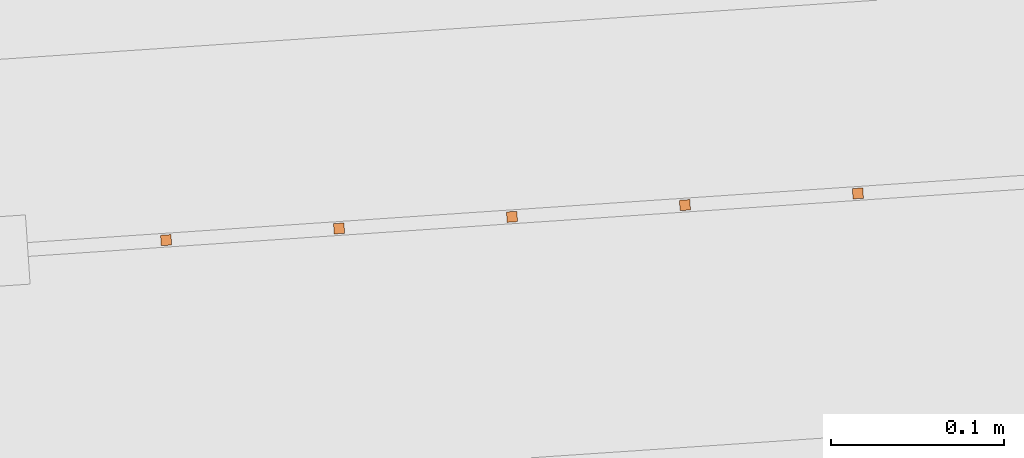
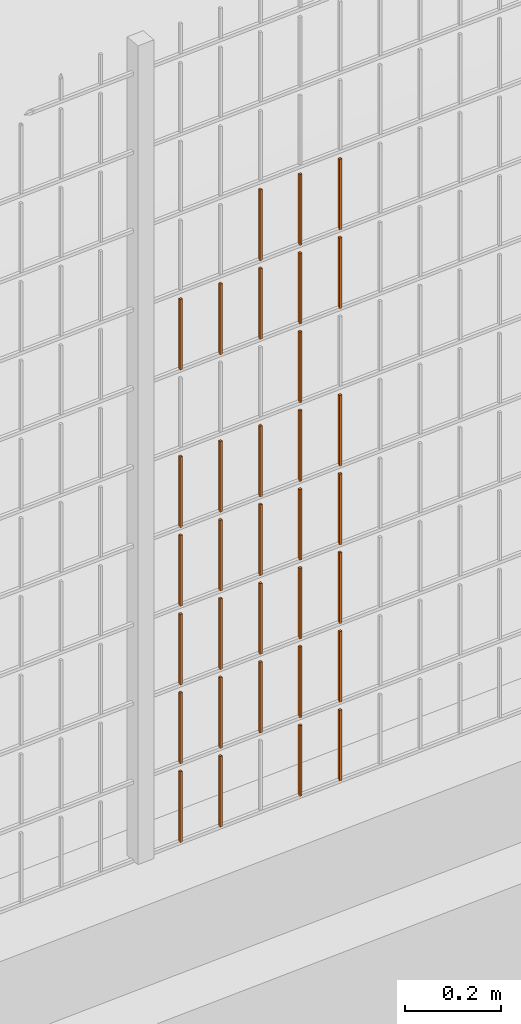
# One storey, part 202 of 1809: 33 proxies, 1 element without a shape of its own.
"""IFC2X3 building model written with IfcOpenShell, lengths in millimetres."""

from ifc_helpers import new_model, entity, si_unit, converted_unit, derived_unit, money_unit, direction, frame, origin_with_axes, place, context, subcontext, project, spatial, faceted_brep, source, transform, mapped, material, type_object, element, aggregate, save


model = new_model("IFC2X3")

# Units and contexts
model_context = context("Model", 3, precision=0.01, world=origin_with_axes(), true_north=direction((0.0, 1.0)))
body_context = subcontext(model_context, "Body", "Model", "MODEL_VIEW")
ifc_project = project(units=[si_unit("LENGTHUNIT", "METRE", prefix="MILLI"), si_unit("AREAUNIT", "SQUARE_METRE"), si_unit("VOLUMEUNIT", "CUBIC_METRE"), converted_unit("PLANEANGLEUNIT", "DEGREE", entity("IfcPlaneAngleMeasure", 0.0174532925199), si_unit("PLANEANGLEUNIT", "RADIAN"), dimensions=[0, 0, 0, 0, 0, 0, 0]), si_unit("SOLIDANGLEUNIT", "STERADIAN"), money_unit("EUR"), converted_unit("TIMEUNIT", "Year", entity("IfcTimeMeasure", 31556926.0), si_unit("TIMEUNIT", "SECOND"), dimensions=[0, 0, 1, 0, 0, 0, 0]), si_unit("MASSUNIT", "GRAM", prefix="KILO"), si_unit("THERMODYNAMICTEMPERATUREUNIT", "DEGREE_CELSIUS"), si_unit("LUMINOUSINTENSITYUNIT", "LUMEN"), si_unit("ENERGYUNIT", "JOULE", prefix="MEGA"), derived_unit("THERMALCONDUCTANCEUNIT", [(si_unit("POWERUNIT", "WATT"), 1), (si_unit("LENGTHUNIT", "METRE"), -1), (si_unit("THERMODYNAMICTEMPERATUREUNIT", "KELVIN"), -1)]), derived_unit("SPECIFICHEATCAPACITYUNIT", [(si_unit("ENERGYUNIT", "JOULE"), 1), (si_unit("MASSUNIT", "GRAM", prefix="KILO"), -1), (si_unit("THERMODYNAMICTEMPERATUREUNIT", "KELVIN"), -1)]), derived_unit("MASSDENSITYUNIT", [(si_unit("MASSUNIT", "GRAM", prefix="KILO"), 1), (si_unit("VOLUMEUNIT", "CUBIC_METRE"), -1)])], contexts=[model_context])

# Site, building, storey
site_placement = place(None, origin_with_axes())
site = spatial("IfcSite", under=ifc_project, at=site_placement, Name="Politse- ja Piirivalveameti ning Päästeameti ühishoone", CompositionType="ELEMENT")
building_placement = place(site_placement, origin_with_axes())
building = spatial("IfcBuilding", under=site, at=building_placement, Name="Politse- ja Piirivalveameti ning Päästeameti ühishoone", CompositionType="ELEMENT")
storey_placement = place(building_placement, origin_with_axes())
storey = spatial("IfcBuildingStorey", under=building, at=storey_placement, Name="Esimene korrus", CompositionType="ELEMENT", Elevation=0.0)

# Proxies
building_element_proxy_type_1 = type_object("IfcBuildingElementProxyType", Name="Railing Type", PredefinedType="NOTDEFINED")
proxy_1_placement = place(storey_placement, frame((89252.001212, -29183.4766571, 203.661247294), z_axis=(0.0, 0.0, 1.0), x_axis=(1.0, 0.0, 0.0)))
proxy_1 = element("IfcBuildingElementProxy", 1, at=proxy_1_placement, inside=storey, type_object=building_element_proxy_type_1, Name="PIIRDEAED")
ifc_material = material(Name="ET-03_Raud")
building_element_proxy_type_2 = type_object("IfcBuildingElementProxyType", Name="IfcBuildingElementProxy", PredefinedType="NOTDEFINED")
shared_shape_1 = source(origin_with_axes(), body_context, "Body", "Brep", [
    faceted_brep([(3.0, 3.0, -0.000752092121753), (-3.0, 3.0, -0.000752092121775), (-3.0, 3.0, 179.99926046), (3.0, 3.0, 179.99926046), (3.0, -3.0, 0.000752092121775), (-3.0, -3.0, 0.000752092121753), (-3.0, -3.0, 180.000764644), (3.0, -3.0, 180.000764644)], [[[0, 1, 2, 3]], [[0, 4, 5, 1]], [[1, 5, 6, 2]], [[3, 2, 6, 7]], [[4, 0, 3, 7]], [[5, 4, 7, 6]]]),
])
proxy_2_placement = place(proxy_1_placement, frame((-64180.4431892, -21632.9214908, 1211.10785376), z_axis=(0.0, 0.0, 1.0), x_axis=(1.0, 0.0, 0.0)))
proxy_2 = element("IfcBuildingElementProxy", 2, at=proxy_2_placement, type_object=building_element_proxy_type_2, material=ifc_material, Name="BALUSTER - 001", context=body_context, shape_type="MappedRepresentation", body=[
    mapped(shared_shape_1, transform((0.0, 0.0, 0.0), x_axis=(-0.0673926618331, 0.997726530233, 0.0), y_axis=(-0.997726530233, -0.0673926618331, 0.0), z_axis=(0.0, 0.0, 1.0))),
])
shared_shape_2 = source(origin_with_axes(), body_context, "Body", "Brep", [
    faceted_brep([(3.0, 3.0, -0.000752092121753), (-3.0, 3.0, -0.000752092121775), (-3.0, 3.0, 179.99926046), (3.0, 3.0, 179.99926046), (3.0, -3.0, 0.000752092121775), (-3.0, -3.0, 0.000752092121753), (-3.0, -3.0, 180.000764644), (3.0, -3.0, 180.000764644)], [[[0, 1, 2, 3]], [[0, 4, 5, 1]], [[1, 5, 6, 2]], [[3, 2, 6, 7]], [[4, 0, 3, 7]], [[5, 4, 7, 6]]]),
])
proxy_3_placement = place(proxy_1_placement, frame((-64180.4431892, -21632.9214908, 1411.10785376), z_axis=(0.0, 0.0, 1.0), x_axis=(1.0, 0.0, 0.0)))
proxy_3 = element("IfcBuildingElementProxy", 3, at=proxy_3_placement, type_object=building_element_proxy_type_2, material=ifc_material, Name="BALUSTER - 001", context=body_context, shape_type="MappedRepresentation", body=[
    mapped(shared_shape_2, transform((0.0, 0.0, 0.0), x_axis=(-0.0673926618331, 0.997726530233, 0.0), y_axis=(-0.997726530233, -0.0673926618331, 0.0), z_axis=(0.0, 0.0, 1.0))),
])
shared_shape_3 = source(origin_with_axes(), body_context, "Body", "Brep", [
    faceted_brep([(3.0, 3.0, -0.000752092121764), (-3.0, 3.0, -0.000752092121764), (-3.0, 3.0, 179.99926046), (3.0, 3.0, 179.99926046), (3.0, -3.0, 0.000752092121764), (-3.0, -3.0, 0.000752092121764), (-3.0, -3.0, 180.000764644), (3.0, -3.0, 180.000764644)], [[[0, 1, 2, 3]], [[0, 4, 5, 1]], [[1, 5, 6, 2]], [[3, 2, 6, 7]], [[4, 0, 3, 7]], [[5, 4, 7, 6]]]),
])
proxy_4_placement = place(proxy_1_placement, frame((-64280.2158422, -21639.660757, 11.0827840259), z_axis=(0.0, 0.0, 1.0), x_axis=(1.0, 0.0, 0.0)))
proxy_4 = element("IfcBuildingElementProxy", 4, at=proxy_4_placement, type_object=building_element_proxy_type_2, material=ifc_material, Name="BALUSTER - 001", context=body_context, shape_type="MappedRepresentation", body=[
    mapped(shared_shape_3, transform((0.0, 0.0, 0.0), x_axis=(-0.0673926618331, 0.997726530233, 0.0), y_axis=(-0.997726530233, -0.0673926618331, 0.0), z_axis=(0.0, 0.0, 1.0))),
])
shared_shape_4 = source(origin_with_axes(), body_context, "Body", "Brep", [
    faceted_brep([(3.0, 3.0, -0.000752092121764), (-3.0, 3.0, -0.000752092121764), (-3.0, 3.0, 179.99926046), (3.0, 3.0, 179.99926046), (3.0, -3.0, 0.000752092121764), (-3.0, -3.0, 0.000752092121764), (-3.0, -3.0, 180.000764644), (3.0, -3.0, 180.000764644)], [[[0, 1, 2, 3]], [[0, 4, 5, 1]], [[1, 5, 6, 2]], [[3, 2, 6, 7]], [[4, 0, 3, 7]], [[5, 4, 7, 6]]]),
])
proxy_5_placement = place(proxy_1_placement, frame((-64479.7611482, -21653.1392893, 11.0326445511), z_axis=(0.0, 0.0, 1.0), x_axis=(1.0, 0.0, 0.0)))
proxy_5 = element("IfcBuildingElementProxy", 5, at=proxy_5_placement, type_object=building_element_proxy_type_2, material=ifc_material, Name="BALUSTER - 001", context=body_context, shape_type="MappedRepresentation", body=[
    mapped(shared_shape_4, transform((0.0, 0.0, 0.0), x_axis=(-0.0673926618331, 0.997726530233, 0.0), y_axis=(-0.997726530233, -0.0673926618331, 0.0), z_axis=(0.0, 0.0, 1.0))),
])
shared_shape_5 = source(origin_with_axes(), body_context, "Body", "Brep", [
    faceted_brep([(3.0, 3.0, -0.000752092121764), (-3.0, 3.0, -0.000752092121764), (-3.0, 3.0, 179.99926046), (3.0, 3.0, 179.99926046), (3.0, -3.0, 0.000752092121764), (-3.0, -3.0, 0.000752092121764), (-3.0, -3.0, 180.000764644), (3.0, -3.0, 180.000764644)], [[[0, 1, 2, 3]], [[0, 4, 5, 1]], [[1, 5, 6, 2]], [[3, 2, 6, 7]], [[4, 0, 3, 7]], [[5, 4, 7, 6]]]),
])
proxy_6_placement = place(proxy_1_placement, frame((-64479.7611482, -21653.1392893, 211.032644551), z_axis=(0.0, 0.0, 1.0), x_axis=(1.0, 0.0, 0.0)))
proxy_6 = element("IfcBuildingElementProxy", 6, at=proxy_6_placement, type_object=building_element_proxy_type_2, material=ifc_material, Name="BALUSTER - 001", context=body_context, shape_type="MappedRepresentation", body=[
    mapped(shared_shape_5, transform((0.0, 0.0, 0.0), x_axis=(-0.0673926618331, 0.997726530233, 0.0), y_axis=(-0.997726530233, -0.0673926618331, 0.0), z_axis=(0.0, 0.0, 1.0))),
])
proxy_7_placement = place(proxy_1_placement, frame((-64479.7611482, -21653.1392893, 411.032644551), z_axis=(0.0, 0.0, 1.0), x_axis=(1.0, 0.0, 0.0)))
proxy_7 = element("IfcBuildingElementProxy", 7, at=proxy_7_placement, type_object=building_element_proxy_type_2, material=ifc_material, Name="BALUSTER - 001", context=body_context, shape_type="MappedRepresentation", body=[
    mapped(shared_shape_5, transform((0.0, 0.0, 0.0), x_axis=(-0.0673926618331, 0.997726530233, 0.0), y_axis=(-0.997726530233, -0.0673926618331, 0.0), z_axis=(0.0, 0.0, 1.0))),
])
shared_shape_6 = source(origin_with_axes(), body_context, "Body", "Brep", [
    faceted_brep([(3.0, 3.0, -0.000752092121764), (-3.0, 3.0, -0.000752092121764), (-3.0, 3.0, 179.99926046), (3.0, 3.0, 179.99926046), (3.0, -3.0, 0.000752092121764), (-3.0, -3.0, 0.000752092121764), (-3.0, -3.0, 180.000764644), (3.0, -3.0, 180.000764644)], [[[0, 1, 2, 3]], [[0, 4, 5, 1]], [[1, 5, 6, 2]], [[3, 2, 6, 7]], [[4, 0, 3, 7]], [[5, 4, 7, 6]]]),
])
proxy_8_placement = place(proxy_1_placement, frame((-64280.2158422, -21639.660757, 211.082784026), z_axis=(0.0, 0.0, 1.0), x_axis=(1.0, 0.0, 0.0)))
proxy_8 = element("IfcBuildingElementProxy", 8, at=proxy_8_placement, type_object=building_element_proxy_type_2, material=ifc_material, Name="BALUSTER - 001", context=body_context, shape_type="MappedRepresentation", body=[
    mapped(shared_shape_6, transform((0.0, 0.0, 0.0), x_axis=(-0.0673926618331, 0.997726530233, 0.0), y_axis=(-0.997726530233, -0.0673926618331, 0.0), z_axis=(0.0, 0.0, 1.0))),
])
proxy_9_placement = place(proxy_1_placement, frame((-64280.2158422, -21639.660757, 411.082784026), z_axis=(0.0, 0.0, 1.0), x_axis=(1.0, 0.0, 0.0)))
proxy_9 = element("IfcBuildingElementProxy", 9, at=proxy_9_placement, type_object=building_element_proxy_type_2, material=ifc_material, Name="BALUSTER - 001", context=body_context, shape_type="MappedRepresentation", body=[
    mapped(shared_shape_6, transform((0.0, 0.0, 0.0), x_axis=(-0.0673926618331, 0.997726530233, 0.0), y_axis=(-0.997726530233, -0.0673926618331, 0.0), z_axis=(0.0, 0.0, 1.0))),
])
shared_shape_7 = source(origin_with_axes(), body_context, "Body", "Brep", [
    faceted_brep([(3.0, 3.0, -0.000752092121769), (-3.0, 3.0, -0.000752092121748), (-3.0, 3.0, 179.99926046), (3.0, 3.0, 179.99926046), (3.0, -3.0, 0.000752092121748), (-3.0, -3.0, 0.000752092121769), (-3.0, -3.0, 180.000764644), (3.0, -3.0, 180.000764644)], [[[0, 1, 2, 3]], [[0, 4, 5, 1]], [[1, 5, 6, 2]], [[3, 2, 6, 7]], [[4, 0, 3, 7]], [[5, 4, 7, 6]]]),
])
proxy_10_placement = place(proxy_1_placement, frame((-64379.9884952, -21646.4000231, 411.057714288), z_axis=(0.0, 0.0, 1.0), x_axis=(1.0, 0.0, 0.0)))
proxy_10 = element("IfcBuildingElementProxy", 10, at=proxy_10_placement, type_object=building_element_proxy_type_2, material=ifc_material, Name="BALUSTER - 001", context=body_context, shape_type="MappedRepresentation", body=[
    mapped(shared_shape_7, transform((0.0, 0.0, 0.0), x_axis=(-0.0673926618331, 0.997726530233, 0.0), y_axis=(-0.997726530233, -0.0673926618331, 0.0), z_axis=(0.0, 0.0, 1.0))),
])
shared_shape_8 = source(origin_with_axes(), body_context, "Body", "Brep", [
    faceted_brep([(3.0, 3.0, -0.000752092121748), (-3.0, 3.0, -0.00075209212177), (-3.0, 3.0, 179.99926046), (3.0, 3.0, 179.99926046), (3.0, -3.0, 0.00075209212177), (-3.0, -3.0, 0.000752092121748), (-3.0, -3.0, 180.000764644), (3.0, -3.0, 180.000764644)], [[[0, 1, 2, 3]], [[0, 4, 5, 1]], [[1, 5, 6, 2]], [[3, 2, 6, 7]], [[4, 0, 3, 7]], [[5, 4, 7, 6]]]),
])
proxy_11_placement = place(proxy_1_placement, frame((-64180.4431892, -21632.9214908, 411.107853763), z_axis=(0.0, 0.0, 1.0), x_axis=(1.0, 0.0, 0.0)))
proxy_11 = element("IfcBuildingElementProxy", 11, at=proxy_11_placement, type_object=building_element_proxy_type_2, material=ifc_material, Name="BALUSTER - 001", context=body_context, shape_type="MappedRepresentation", body=[
    mapped(shared_shape_8, transform((0.0, 0.0, 0.0), x_axis=(-0.0673926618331, 0.997726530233, 0.0), y_axis=(-0.997726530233, -0.0673926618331, 0.0), z_axis=(0.0, 0.0, 1.0))),
])
shared_shape_9 = source(origin_with_axes(), body_context, "Body", "Brep", [
    faceted_brep([(3.0, 3.0, -0.000752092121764), (-3.0, 3.0, -0.000752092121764), (-3.0, 3.0, 179.99926046), (3.0, 3.0, 179.99926046), (3.0, -3.0, 0.000752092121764), (-3.0, -3.0, 0.000752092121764), (-3.0, -3.0, 180.000764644), (3.0, -3.0, 180.000764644)], [[[0, 1, 2, 3]], [[0, 4, 5, 1]], [[1, 5, 6, 2]], [[3, 2, 6, 7]], [[4, 0, 3, 7]], [[5, 4, 7, 6]]]),
])
proxy_12_placement = place(proxy_1_placement, frame((-64479.7611482, -21653.1392893, 611.032644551), z_axis=(0.0, 0.0, 1.0), x_axis=(1.0, 0.0, 0.0)))
proxy_12 = element("IfcBuildingElementProxy", 12, at=proxy_12_placement, type_object=building_element_proxy_type_2, material=ifc_material, Name="BALUSTER - 001", context=body_context, shape_type="MappedRepresentation", body=[
    mapped(shared_shape_9, transform((0.0, 0.0, 0.0), x_axis=(-0.0673926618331, 0.997726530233, 0.0), y_axis=(-0.997726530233, -0.0673926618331, 0.0), z_axis=(0.0, 0.0, 1.0))),
])
shared_shape_10 = source(origin_with_axes(), body_context, "Body", "Brep", [
    faceted_brep([(3.0, 3.0, -0.000752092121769), (-3.0, 3.0, -0.000752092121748), (-3.0, 3.0, 179.99926046), (3.0, 3.0, 179.99926046), (3.0, -3.0, 0.000752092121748), (-3.0, -3.0, 0.000752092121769), (-3.0, -3.0, 180.000764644), (3.0, -3.0, 180.000764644)], [[[0, 1, 2, 3]], [[0, 4, 5, 1]], [[1, 5, 6, 2]], [[3, 2, 6, 7]], [[4, 0, 3, 7]], [[5, 4, 7, 6]]]),
])
proxy_13_placement = place(proxy_1_placement, frame((-64379.9884952, -21646.4000231, 811.057714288), z_axis=(0.0, 0.0, 1.0), x_axis=(1.0, 0.0, 0.0)))
proxy_13 = element("IfcBuildingElementProxy", 13, at=proxy_13_placement, type_object=building_element_proxy_type_2, material=ifc_material, Name="BALUSTER - 001", context=body_context, shape_type="MappedRepresentation", body=[
    mapped(shared_shape_10, transform((0.0, 0.0, 0.0), x_axis=(-0.0673926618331, 0.997726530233, 0.0), y_axis=(-0.997726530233, -0.0673926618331, 0.0), z_axis=(0.0, 0.0, 1.0))),
])
shared_shape_11 = source(origin_with_axes(), body_context, "Body", "Brep", [
    faceted_brep([(3.0, 3.0, -0.000752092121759), (-3.0, 3.0, -0.000752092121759), (-3.0, 3.0, 179.99926046), (3.0, 3.0, 179.99926046), (3.0, -3.0, 0.000752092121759), (-3.0, -3.0, 0.000752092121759), (-3.0, -3.0, 180.000764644), (3.0, -3.0, 180.000764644)], [[[0, 1, 2, 3]], [[0, 4, 5, 1]], [[1, 5, 6, 2]], [[3, 2, 6, 7]], [[4, 0, 3, 7]], [[5, 4, 7, 6]]]),
])
proxy_14_placement = place(proxy_1_placement, frame((-64280.2158422, -21639.660757, 1211.08278403), z_axis=(0.0, 0.0, 1.0), x_axis=(1.0, 0.0, 0.0)))
proxy_14 = element("IfcBuildingElementProxy", 14, at=proxy_14_placement, type_object=building_element_proxy_type_2, material=ifc_material, Name="BALUSTER - 001", context=body_context, shape_type="MappedRepresentation", body=[
    mapped(shared_shape_11, transform((0.0, 0.0, 0.0), x_axis=(-0.0673926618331, 0.997726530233, 0.0), y_axis=(-0.997726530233, -0.0673926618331, 0.0), z_axis=(0.0, 0.0, 1.0))),
])
shared_shape_12 = source(origin_with_axes(), body_context, "Body", "Brep", [
    faceted_brep([(3.0, 3.0, -0.000752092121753), (-3.0, 3.0, -0.000752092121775), (-3.0, 3.0, 179.99926046), (3.0, 3.0, 179.99926046), (3.0, -3.0, 0.000752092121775), (-3.0, -3.0, 0.000752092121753), (-3.0, -3.0, 180.000764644), (3.0, -3.0, 180.000764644)], [[[0, 1, 2, 3]], [[0, 4, 5, 1]], [[1, 5, 6, 2]], [[3, 2, 6, 7]], [[4, 0, 3, 7]], [[5, 4, 7, 6]]]),
])
proxy_15_placement = place(proxy_1_placement, frame((-64579.5338013, -21659.8785555, 1211.00757481), z_axis=(0.0, 0.0, 1.0), x_axis=(1.0, 0.0, 0.0)))
proxy_15 = element("IfcBuildingElementProxy", 15, at=proxy_15_placement, type_object=building_element_proxy_type_2, material=ifc_material, Name="BALUSTER - 001", context=body_context, shape_type="MappedRepresentation", body=[
    mapped(shared_shape_12, transform((0.0, 0.0, 0.0), x_axis=(-0.0673926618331, 0.997726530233, 0.0), y_axis=(-0.997726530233, -0.0673926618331, 0.0), z_axis=(0.0, 0.0, 1.0))),
])
shared_shape_13 = source(origin_with_axes(), body_context, "Body", "Brep", [
    faceted_brep([(3.0, 3.0, -0.000752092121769), (-3.0, 3.0, -0.000752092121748), (-3.0, 3.0, 179.99926046), (3.0, 3.0, 179.99926046), (3.0, -3.0, 0.000752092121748), (-3.0, -3.0, 0.000752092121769), (-3.0, -3.0, 180.000764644), (3.0, -3.0, 180.000764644)], [[[0, 1, 2, 3]], [[0, 4, 5, 1]], [[1, 5, 6, 2]], [[3, 2, 6, 7]], [[4, 0, 3, 7]], [[5, 4, 7, 6]]]),
])
proxy_16_placement = place(proxy_1_placement, frame((-64379.9884952, -21646.4000231, 211.057714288), z_axis=(0.0, 0.0, 1.0), x_axis=(1.0, 0.0, 0.0)))
proxy_16 = element("IfcBuildingElementProxy", 16, at=proxy_16_placement, type_object=building_element_proxy_type_2, material=ifc_material, Name="BALUSTER - 001", context=body_context, shape_type="MappedRepresentation", body=[
    mapped(shared_shape_13, transform((0.0, 0.0, 0.0), x_axis=(-0.0673926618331, 0.997726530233, 0.0), y_axis=(-0.997726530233, -0.0673926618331, 0.0), z_axis=(0.0, 0.0, 1.0))),
])
proxy_17_placement = place(proxy_1_placement, frame((-64379.9884952, -21646.4000231, 611.057714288), z_axis=(0.0, 0.0, 1.0), x_axis=(1.0, 0.0, 0.0)))
proxy_17 = element("IfcBuildingElementProxy", 17, at=proxy_17_placement, type_object=building_element_proxy_type_2, material=ifc_material, Name="BALUSTER - 001", context=body_context, shape_type="MappedRepresentation", body=[
    mapped(shared_shape_13, transform((0.0, 0.0, 0.0), x_axis=(-0.0673926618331, 0.997726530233, 0.0), y_axis=(-0.997726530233, -0.0673926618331, 0.0), z_axis=(0.0, 0.0, 1.0))),
])
shared_shape_14 = source(origin_with_axes(), body_context, "Body", "Brep", [
    faceted_brep([(3.0, 3.0, -0.000752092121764), (-3.0, 3.0, -0.000752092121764), (-3.0, 3.0, 179.99926046), (3.0, 3.0, 179.99926046), (3.0, -3.0, 0.000752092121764), (-3.0, -3.0, 0.000752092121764), (-3.0, -3.0, 180.000764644), (3.0, -3.0, 180.000764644)], [[[0, 1, 2, 3]], [[0, 4, 5, 1]], [[1, 5, 6, 2]], [[3, 2, 6, 7]], [[4, 0, 3, 7]], [[5, 4, 7, 6]]]),
])
proxy_18_placement = place(proxy_1_placement, frame((-64479.7611482, -21653.1392893, 1211.03264455), z_axis=(0.0, 0.0, 1.0), x_axis=(1.0, 0.0, 0.0)))
proxy_18 = element("IfcBuildingElementProxy", 18, at=proxy_18_placement, type_object=building_element_proxy_type_2, material=ifc_material, Name="BALUSTER - 001", context=body_context, shape_type="MappedRepresentation", body=[
    mapped(shared_shape_14, transform((0.0, 0.0, 0.0), x_axis=(-0.0673926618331, 0.997726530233, 0.0), y_axis=(-0.997726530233, -0.0673926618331, 0.0), z_axis=(0.0, 0.0, 1.0))),
])
shared_shape_15 = source(origin_with_axes(), body_context, "Body", "Brep", [
    faceted_brep([(3.0, 3.0, -0.000752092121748), (-3.0, 3.0, -0.00075209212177), (-3.0, 3.0, 179.99926046), (3.0, 3.0, 179.99926046), (3.0, -3.0, 0.00075209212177), (-3.0, -3.0, 0.000752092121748), (-3.0, -3.0, 180.000764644), (3.0, -3.0, 180.000764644)], [[[0, 1, 2, 3]], [[0, 4, 5, 1]], [[1, 5, 6, 2]], [[3, 2, 6, 7]], [[4, 0, 3, 7]], [[5, 4, 7, 6]]]),
])
proxy_19_placement = place(proxy_1_placement, frame((-64180.4431892, -21632.9214908, 611.107853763), z_axis=(0.0, 0.0, 1.0), x_axis=(1.0, 0.0, 0.0)))
proxy_19 = element("IfcBuildingElementProxy", 19, at=proxy_19_placement, type_object=building_element_proxy_type_2, material=ifc_material, Name="BALUSTER - 001", context=body_context, shape_type="MappedRepresentation", body=[
    mapped(shared_shape_15, transform((0.0, 0.0, 0.0), x_axis=(-0.0673926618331, 0.997726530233, 0.0), y_axis=(-0.997726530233, -0.0673926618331, 0.0), z_axis=(0.0, 0.0, 1.0))),
])
shared_shape_16 = source(origin_with_axes(), body_context, "Body", "Brep", [
    faceted_brep([(3.0, 3.0, -0.000752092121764), (-3.0, 3.0, -0.000752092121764), (-3.0, 3.0, 179.99926046), (3.0, 3.0, 179.99926046), (3.0, -3.0, 0.000752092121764), (-3.0, -3.0, 0.000752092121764), (-3.0, -3.0, 180.000764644), (3.0, -3.0, 180.000764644)], [[[0, 1, 2, 3]], [[0, 4, 5, 1]], [[1, 5, 6, 2]], [[3, 2, 6, 7]], [[4, 0, 3, 7]], [[5, 4, 7, 6]]]),
])
proxy_20_placement = place(proxy_1_placement, frame((-64479.7611482, -21653.1392893, 811.032644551), z_axis=(0.0, 0.0, 1.0), x_axis=(1.0, 0.0, 0.0)))
proxy_20 = element("IfcBuildingElementProxy", 20, at=proxy_20_placement, type_object=building_element_proxy_type_2, material=ifc_material, Name="BALUSTER - 001", context=body_context, shape_type="MappedRepresentation", body=[
    mapped(shared_shape_16, transform((0.0, 0.0, 0.0), x_axis=(-0.0673926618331, 0.997726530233, 0.0), y_axis=(-0.997726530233, -0.0673926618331, 0.0), z_axis=(0.0, 0.0, 1.0))),
])
proxy_21_placement = place(proxy_1_placement, frame((-64379.9884952, -21646.4000231, 1211.05771429), z_axis=(0.0, 0.0, 1.0), x_axis=(1.0, 0.0, 0.0)))
proxy_21 = element("IfcBuildingElementProxy", 21, at=proxy_21_placement, type_object=building_element_proxy_type_2, material=ifc_material, Name="BALUSTER - 001", context=body_context, shape_type="MappedRepresentation", body=[
    mapped(shared_shape_16, transform((0.0, 0.0, 0.0), x_axis=(-0.0673926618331, 0.997726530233, 0.0), y_axis=(-0.997726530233, -0.0673926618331, 0.0), z_axis=(0.0, 0.0, 1.0))),
])
shared_shape_17 = source(origin_with_axes(), body_context, "Body", "Brep", [
    faceted_brep([(3.0, 3.0, -0.000752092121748), (-3.0, 3.0, -0.00075209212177), (-3.0, 3.0, 179.99926046), (3.0, 3.0, 179.99926046), (3.0, -3.0, 0.00075209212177), (-3.0, -3.0, 0.000752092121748), (-3.0, -3.0, 180.000764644), (3.0, -3.0, 180.000764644)], [[[0, 1, 2, 3]], [[0, 4, 5, 1]], [[1, 5, 6, 2]], [[3, 2, 6, 7]], [[4, 0, 3, 7]], [[5, 4, 7, 6]]]),
])
proxy_22_placement = place(proxy_1_placement, frame((-64180.4431892, -21632.9214908, 811.107853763), z_axis=(0.0, 0.0, 1.0), x_axis=(1.0, 0.0, 0.0)))
proxy_22 = element("IfcBuildingElementProxy", 22, at=proxy_22_placement, type_object=building_element_proxy_type_2, material=ifc_material, Name="BALUSTER - 001", context=body_context, shape_type="MappedRepresentation", body=[
    mapped(shared_shape_17, transform((0.0, 0.0, 0.0), x_axis=(-0.0673926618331, 0.997726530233, 0.0), y_axis=(-0.997726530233, -0.0673926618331, 0.0), z_axis=(0.0, 0.0, 1.0))),
])
shared_shape_18 = source(origin_with_axes(), body_context, "Body", "Brep", [
    faceted_brep([(3.0, 3.0, -0.000752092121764), (-3.0, 3.0, -0.000752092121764), (-3.0, 3.0, 179.99926046), (3.0, 3.0, 179.99926046), (3.0, -3.0, 0.000752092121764), (-3.0, -3.0, 0.000752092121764), (-3.0, -3.0, 180.000764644), (3.0, -3.0, 180.000764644)], [[[0, 1, 2, 3]], [[0, 4, 5, 1]], [[1, 5, 6, 2]], [[3, 2, 6, 7]], [[4, 0, 3, 7]], [[5, 4, 7, 6]]]),
])
proxy_23_placement = place(proxy_1_placement, frame((-64379.9884952, -21646.4000231, 1411.05771429), z_axis=(0.0, 0.0, 1.0), x_axis=(1.0, 0.0, 0.0)))
proxy_23 = element("IfcBuildingElementProxy", 23, at=proxy_23_placement, type_object=building_element_proxy_type_2, material=ifc_material, Name="BALUSTER - 001", context=body_context, shape_type="MappedRepresentation", body=[
    mapped(shared_shape_18, transform((0.0, 0.0, 0.0), x_axis=(-0.0673926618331, 0.997726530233, 0.0), y_axis=(-0.997726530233, -0.0673926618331, 0.0), z_axis=(0.0, 0.0, 1.0))),
])
shared_shape_19 = source(origin_with_axes(), body_context, "Body", "Brep", [
    faceted_brep([(3.0, 3.0, -0.000752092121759), (-3.0, 3.0, -0.000752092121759), (-3.0, 3.0, 179.99926046), (3.0, 3.0, 179.99926046), (3.0, -3.0, 0.000752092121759), (-3.0, -3.0, 0.000752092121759), (-3.0, -3.0, 180.000764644), (3.0, -3.0, 180.000764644)], [[[0, 1, 2, 3]], [[0, 4, 5, 1]], [[1, 5, 6, 2]], [[3, 2, 6, 7]], [[4, 0, 3, 7]], [[5, 4, 7, 6]]]),
])
proxy_24_placement = place(proxy_1_placement, frame((-64280.2158422, -21639.660757, 1411.08278403), z_axis=(0.0, 0.0, 1.0), x_axis=(1.0, 0.0, 0.0)))
proxy_24 = element("IfcBuildingElementProxy", 24, at=proxy_24_placement, type_object=building_element_proxy_type_2, material=ifc_material, Name="BALUSTER - 001", context=body_context, shape_type="MappedRepresentation", body=[
    mapped(shared_shape_19, transform((0.0, 0.0, 0.0), x_axis=(-0.0673926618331, 0.997726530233, 0.0), y_axis=(-0.997726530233, -0.0673926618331, 0.0), z_axis=(0.0, 0.0, 1.0))),
])
shared_shape_20 = source(origin_with_axes(), body_context, "Body", "Brep", [
    faceted_brep([(3.0, 3.0, -0.000752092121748), (-3.0, 3.0, -0.00075209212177), (-3.0, 3.0, 179.99926046), (3.0, 3.0, 179.99926046), (3.0, -3.0, 0.00075209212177), (-3.0, -3.0, 0.000752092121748), (-3.0, -3.0, 180.000764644), (3.0, -3.0, 180.000764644)], [[[0, 1, 2, 3]], [[0, 4, 5, 1]], [[1, 5, 6, 2]], [[3, 2, 6, 7]], [[4, 0, 3, 7]], [[5, 4, 7, 6]]]),
])
proxy_25_placement = place(proxy_1_placement, frame((-64180.4431892, -21632.9214908, 11.1078537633), z_axis=(0.0, 0.0, 1.0), x_axis=(1.0, 0.0, 0.0)))
proxy_25 = element("IfcBuildingElementProxy", 25, at=proxy_25_placement, type_object=building_element_proxy_type_2, material=ifc_material, Name="BALUSTER - 001", context=body_context, shape_type="MappedRepresentation", body=[
    mapped(shared_shape_20, transform((0.0, 0.0, 0.0), x_axis=(-0.0673926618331, 0.997726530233, 0.0), y_axis=(-0.997726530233, -0.0673926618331, 0.0), z_axis=(0.0, 0.0, 1.0))),
])
shared_shape_21 = source(origin_with_axes(), body_context, "Body", "Brep", [
    faceted_brep([(3.0, 3.0, -0.000752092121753), (-3.0, 3.0, -0.000752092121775), (-3.0, 3.0, 179.99926046), (3.0, 3.0, 179.99926046), (3.0, -3.0, 0.000752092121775), (-3.0, -3.0, 0.000752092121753), (-3.0, -3.0, 180.000764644), (3.0, -3.0, 180.000764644)], [[[0, 1, 2, 3]], [[0, 4, 5, 1]], [[1, 5, 6, 2]], [[3, 2, 6, 7]], [[4, 0, 3, 7]], [[5, 4, 7, 6]]]),
])
proxy_26_placement = place(proxy_1_placement, frame((-64579.5338013, -21659.8785555, 11.0075748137), z_axis=(0.0, 0.0, 1.0), x_axis=(1.0, 0.0, 0.0)))
proxy_26 = element("IfcBuildingElementProxy", 26, at=proxy_26_placement, type_object=building_element_proxy_type_2, material=ifc_material, Name="BALUSTER - 001", context=body_context, shape_type="MappedRepresentation", body=[
    mapped(shared_shape_21, transform((0.0, 0.0, 0.0), x_axis=(-0.0673926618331, 0.997726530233, 0.0), y_axis=(-0.997726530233, -0.0673926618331, 0.0), z_axis=(0.0, 0.0, 1.0))),
])
shared_shape_22 = source(origin_with_axes(), body_context, "Body", "Brep", [
    faceted_brep([(3.0, 3.0, -0.000752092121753), (-3.0, 3.0, -0.000752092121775), (-3.0, 3.0, 179.99926046), (3.0, 3.0, 179.99926046), (3.0, -3.0, 0.000752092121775), (-3.0, -3.0, 0.000752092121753), (-3.0, -3.0, 180.000764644), (3.0, -3.0, 180.000764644)], [[[0, 1, 2, 3]], [[0, 4, 5, 1]], [[1, 5, 6, 2]], [[3, 2, 6, 7]], [[4, 0, 3, 7]], [[5, 4, 7, 6]]]),
])
proxy_27_placement = place(proxy_1_placement, frame((-64579.5338013, -21659.8785555, 211.007574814), z_axis=(0.0, 0.0, 1.0), x_axis=(1.0, 0.0, 0.0)))
proxy_27 = element("IfcBuildingElementProxy", 27, at=proxy_27_placement, type_object=building_element_proxy_type_2, material=ifc_material, Name="BALUSTER - 001", context=body_context, shape_type="MappedRepresentation", body=[
    mapped(shared_shape_22, transform((0.0, 0.0, 0.0), x_axis=(-0.0673926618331, 0.997726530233, 0.0), y_axis=(-0.997726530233, -0.0673926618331, 0.0), z_axis=(0.0, 0.0, 1.0))),
])
shared_shape_23 = source(origin_with_axes(), body_context, "Body", "Brep", [
    faceted_brep([(3.0, 3.0, -0.000752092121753), (-3.0, 3.0, -0.000752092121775), (-3.0, 3.0, 179.99926046), (3.0, 3.0, 179.99926046), (3.0, -3.0, 0.000752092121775), (-3.0, -3.0, 0.000752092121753), (-3.0, -3.0, 180.000764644), (3.0, -3.0, 180.000764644)], [[[0, 1, 2, 3]], [[0, 4, 5, 1]], [[1, 5, 6, 2]], [[3, 2, 6, 7]], [[4, 0, 3, 7]], [[5, 4, 7, 6]]]),
])
proxy_28_placement = place(proxy_1_placement, frame((-64579.5338013, -21659.8785555, 411.007574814), z_axis=(0.0, 0.0, 1.0), x_axis=(1.0, 0.0, 0.0)))
proxy_28 = element("IfcBuildingElementProxy", 28, at=proxy_28_placement, type_object=building_element_proxy_type_2, material=ifc_material, Name="BALUSTER - 001", context=body_context, shape_type="MappedRepresentation", body=[
    mapped(shared_shape_23, transform((0.0, 0.0, 0.0), x_axis=(-0.0673926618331, 0.997726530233, 0.0), y_axis=(-0.997726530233, -0.0673926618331, 0.0), z_axis=(0.0, 0.0, 1.0))),
])
proxy_29_placement = place(proxy_1_placement, frame((-64579.5338013, -21659.8785555, 611.007574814), z_axis=(0.0, 0.0, 1.0), x_axis=(1.0, 0.0, 0.0)))
proxy_29 = element("IfcBuildingElementProxy", 29, at=proxy_29_placement, type_object=building_element_proxy_type_2, material=ifc_material, Name="BALUSTER - 001", context=body_context, shape_type="MappedRepresentation", body=[
    mapped(shared_shape_23, transform((0.0, 0.0, 0.0), x_axis=(-0.0673926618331, 0.997726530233, 0.0), y_axis=(-0.997726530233, -0.0673926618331, 0.0), z_axis=(0.0, 0.0, 1.0))),
])
shared_shape_24 = source(origin_with_axes(), body_context, "Body", "Brep", [
    faceted_brep([(3.0, 3.0, -0.000752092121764), (-3.0, 3.0, -0.000752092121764), (-3.0, 3.0, 179.99926046), (3.0, 3.0, 179.99926046), (3.0, -3.0, 0.000752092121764), (-3.0, -3.0, 0.000752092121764), (-3.0, -3.0, 180.000764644), (3.0, -3.0, 180.000764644)], [[[0, 1, 2, 3]], [[0, 4, 5, 1]], [[1, 5, 6, 2]], [[3, 2, 6, 7]], [[4, 0, 3, 7]], [[5, 4, 7, 6]]]),
])
proxy_30_placement = place(proxy_1_placement, frame((-64280.2158422, -21639.660757, 611.082784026), z_axis=(0.0, 0.0, 1.0), x_axis=(1.0, 0.0, 0.0)))
proxy_30 = element("IfcBuildingElementProxy", 30, at=proxy_30_placement, type_object=building_element_proxy_type_2, material=ifc_material, Name="BALUSTER - 001", context=body_context, shape_type="MappedRepresentation", body=[
    mapped(shared_shape_24, transform((0.0, 0.0, 0.0), x_axis=(-0.0673926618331, 0.997726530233, 0.0), y_axis=(-0.997726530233, -0.0673926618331, 0.0), z_axis=(0.0, 0.0, 1.0))),
])
proxy_31_placement = place(proxy_1_placement, frame((-64280.2158422, -21639.660757, 811.082784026), z_axis=(0.0, 0.0, 1.0), x_axis=(1.0, 0.0, 0.0)))
proxy_31 = element("IfcBuildingElementProxy", 31, at=proxy_31_placement, type_object=building_element_proxy_type_2, material=ifc_material, Name="BALUSTER - 001", context=body_context, shape_type="MappedRepresentation", body=[
    mapped(shared_shape_24, transform((0.0, 0.0, 0.0), x_axis=(-0.0673926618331, 0.997726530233, 0.0), y_axis=(-0.997726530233, -0.0673926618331, 0.0), z_axis=(0.0, 0.0, 1.0))),
])
shared_shape_25 = source(origin_with_axes(), body_context, "Body", "Brep", [
    faceted_brep([(3.0, 3.0, -0.000752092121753), (-3.0, 3.0, -0.000752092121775), (-3.0, 3.0, 179.99926046), (3.0, 3.0, 179.99926046), (3.0, -3.0, 0.000752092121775), (-3.0, -3.0, 0.000752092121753), (-3.0, -3.0, 180.000764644), (3.0, -3.0, 180.000764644)], [[[0, 1, 2, 3]], [[0, 4, 5, 1]], [[1, 5, 6, 2]], [[3, 2, 6, 7]], [[4, 0, 3, 7]], [[5, 4, 7, 6]]]),
])
proxy_32_placement = place(proxy_1_placement, frame((-64579.5338013, -21659.8785555, 811.007574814), z_axis=(0.0, 0.0, 1.0), x_axis=(1.0, 0.0, 0.0)))
proxy_32 = element("IfcBuildingElementProxy", 32, at=proxy_32_placement, type_object=building_element_proxy_type_2, material=ifc_material, Name="BALUSTER - 001", context=body_context, shape_type="MappedRepresentation", body=[
    mapped(shared_shape_25, transform((0.0, 0.0, 0.0), x_axis=(-0.0673926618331, 0.997726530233, 0.0), y_axis=(-0.997726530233, -0.0673926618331, 0.0), z_axis=(0.0, 0.0, 1.0))),
])
shared_shape_26 = source(origin_with_axes(), body_context, "Body", "Brep", [
    faceted_brep([(3.0, 3.0, -0.000752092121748), (-3.0, 3.0, -0.00075209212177), (-3.0, 3.0, 179.99926046), (3.0, 3.0, 179.99926046), (3.0, -3.0, 0.00075209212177), (-3.0, -3.0, 0.000752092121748), (-3.0, -3.0, 180.000764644), (3.0, -3.0, 180.000764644)], [[[0, 1, 2, 3]], [[0, 4, 5, 1]], [[1, 5, 6, 2]], [[3, 2, 6, 7]], [[4, 0, 3, 7]], [[5, 4, 7, 6]]]),
])
proxy_33_placement = place(proxy_1_placement, frame((-64180.4431892, -21632.9214908, 211.107853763), z_axis=(0.0, 0.0, 1.0), x_axis=(1.0, 0.0, 0.0)))
proxy_33 = element("IfcBuildingElementProxy", 33, at=proxy_33_placement, type_object=building_element_proxy_type_2, material=ifc_material, Name="BALUSTER - 001", context=body_context, shape_type="MappedRepresentation", body=[
    mapped(shared_shape_26, transform((0.0, 0.0, 0.0), x_axis=(-0.0673926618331, 0.997726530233, 0.0), y_axis=(-0.997726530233, -0.0673926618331, 0.0), z_axis=(0.0, 0.0, 1.0))),
])
shared_shape_27 = source(origin_with_axes(), body_context, "Body", "Brep", [
    faceted_brep([(3.0, 3.0, -0.000752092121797), (-3.0, 3.0, -0.000752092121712), (-3.0, 3.00000000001, 179.99926046), (3.0, 3.00000000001, 179.99926046), (3.0, -3.0, 0.000752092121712), (-3.0, -3.0, 0.000752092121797), (-3.0, -2.99999999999, 180.000764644), (3.0, -2.99999999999, 180.000764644)], [[[0, 1, 2, 3]], [[0, 4, 5, 1]], [[1, 5, 6, 2]], [[3, 2, 6, 7]], [[4, 0, 3, 7]], [[5, 4, 7, 6]]]),
])
proxy_34_placement = place(proxy_1_placement, frame((-64280.2158422, -21639.660757, 1011.08278403), z_axis=(0.0, 0.0, 1.0), x_axis=(1.0, 0.0, 0.0)))
proxy_34 = element("IfcBuildingElementProxy", 34, at=proxy_34_placement, type_object=building_element_proxy_type_2, material=ifc_material, Name="BALUSTER - 001", context=body_context, shape_type="MappedRepresentation", body=[
    mapped(shared_shape_27, transform((0.0, 0.0, 0.0), x_axis=(-0.0673926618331, 0.997726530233, 0.0), y_axis=(-0.997726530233, -0.0673926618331, 0.0), z_axis=(0.0, 0.0, 1.0))),
])
aggregate(proxy_1, [proxy_25, proxy_4, proxy_5, proxy_26, proxy_33, proxy_8, proxy_16, proxy_6, proxy_27, proxy_11, proxy_9, proxy_10, proxy_7, proxy_28, proxy_19, proxy_30, proxy_17, proxy_12, proxy_29, proxy_22, proxy_31, proxy_13, proxy_20, proxy_32, proxy_34, proxy_2, proxy_14, proxy_21, proxy_18, proxy_15, proxy_3, proxy_24, proxy_23])

save(model, "model.ifc")
